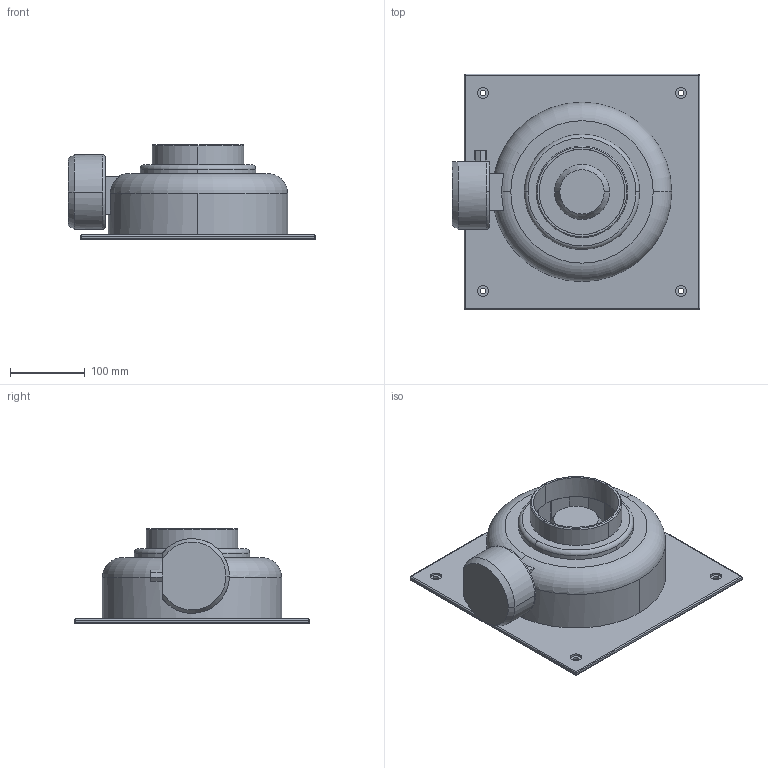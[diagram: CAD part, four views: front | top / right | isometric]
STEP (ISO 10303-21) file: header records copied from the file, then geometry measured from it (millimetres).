
FILE_DESCRIPTION(('STEP AP214'),'1');
FILE_NAME('fan_5145625000.stp','2017-03-31T18:13:28',('TraceParts'),('TraceParts S.A.'),'Spatial InterOp 3D',' ',' ');
FILE_SCHEMA(('automotive_design'));
Length unit declared in the file: millimetre
Products named in the file (1): fan_5145625000
Bounding box: 331 x 315 x 127 mm (x, y, z)
Volume: 1866852.1 mm3; surface area: 528198.5 mm2
Topology: 1 solids, 1 shells, 171 faces, 498 edges, 320 vertices
Faces by surface type: plane 102, cylinder 44, torus 13, sphere 8, cone 4
Entity records: 7205 total; most frequent: CARTESIAN_POINT 1134, DIRECTION 995, ORIENTED_EDGE 980, EDGE_CURVE 490, AXIS2_PLACEMENT_3D 339, VERTEX_POINT 320, LINE 317, VECTOR 317
